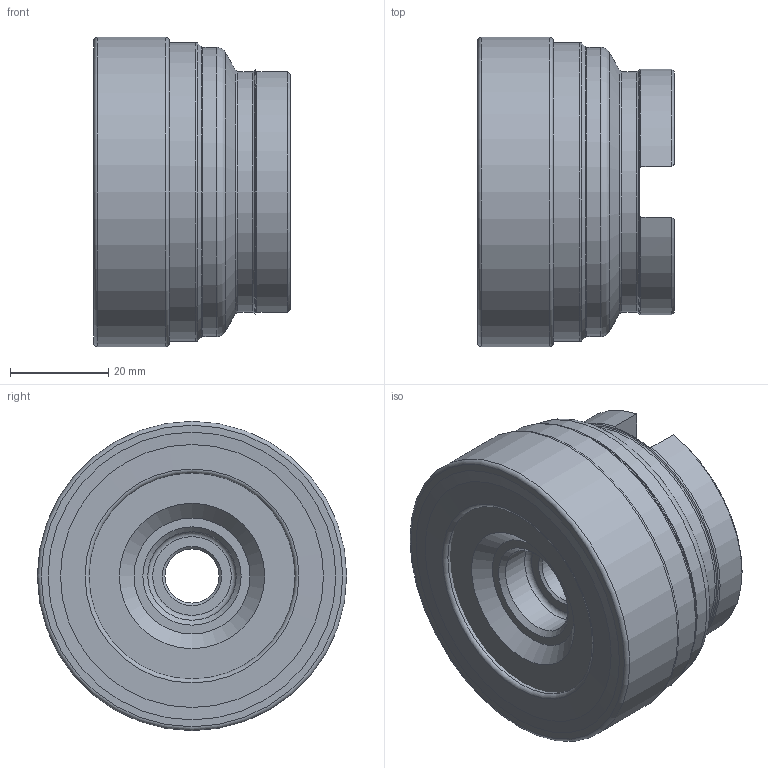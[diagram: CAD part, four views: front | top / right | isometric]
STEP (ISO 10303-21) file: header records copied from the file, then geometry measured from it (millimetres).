
FILE_DESCRIPTION(/* description */ (''),/* implementation_level */ '2;1');
FILE_NAME(/* name */ 'emp13-063-a22-an15-05c.stp',/* time_stamp */ '2018-11-20T13:41:33+08:00',/* author */ (''),/* organization */ (''),/* preprocessor_version */ 'ST-DEVELOPER v11',/* originating_system */ 'UGS - NX 5.0',/* authorisation */ '');
FILE_SCHEMA (('CONFIG_CONTROL_DESIGN'));
Length unit declared in the file: millimetre
Products named in the file (1): wang4F8Ch1mv
Bounding box: 40 x 62.9 x 62.9 mm (x, y, z)
Volume: 110527.6 mm3; surface area: 22660.5 mm2
Topology: 2 solids, 2 shells, 69 faces, 159 edges, 99 vertices
Faces by surface type: plane 23, torus 16, cylinder 15, cone 15
Full cylindrical faces by diameter (mm): 11 x1, 18 x1, 22 x1, 24 x1, 41.9 x1, 49 x1, 58.8 x1, 60.8 x1, 62.9 x1
Entity records: 1940 total; most frequent: CARTESIAN_POINT 514, DIRECTION 284, ORIENTED_EDGE 224, AXIS2_PLACEMENT_3D 130, EDGE_LOOP 112, EDGE_CURVE 112, FACE_BOUND 86, VERTEX_POINT 86
